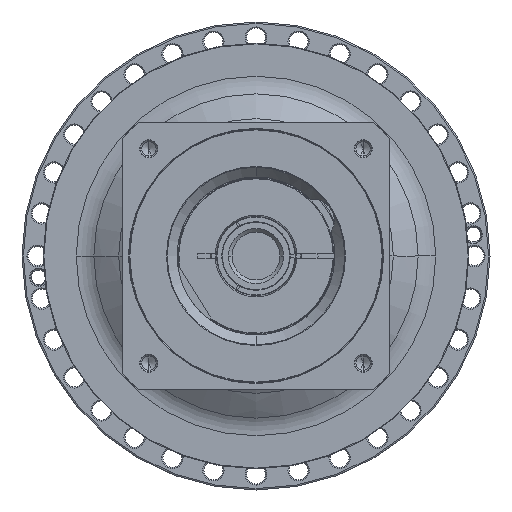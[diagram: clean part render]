
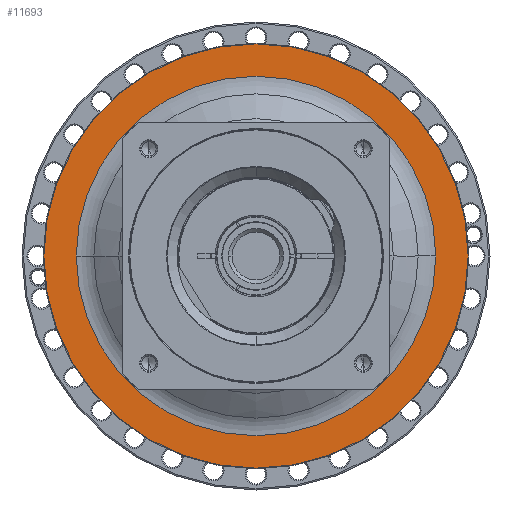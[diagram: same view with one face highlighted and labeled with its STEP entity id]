
A CAD part, left-side view. The second image highlights one B-rep face of the part: STEP entity #11693.
In plain terms, the highlighted planar face has unit normal (-1, 0, 0) as drawn and (1, 0, 0) by its records, which use the part's own axes.
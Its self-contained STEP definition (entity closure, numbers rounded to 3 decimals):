
#11124=CARTESIAN_POINT('',(-31.,0.,0.));
#11125=DIRECTION('',(-1.,0.,0.));
#11126=DIRECTION('',(0.,-1.,0.));
#11127=AXIS2_PLACEMENT_3D('',#11124,#11125,#11126);
#11129=CARTESIAN_POINT('',(-31.,0.,0.));
#11130=DIRECTION('',(-1.,0.,0.));
#11131=DIRECTION('',(0.,1.,0.));
#11132=AXIS2_PLACEMENT_3D('',#11129,#11130,#11131);
#11134=CARTESIAN_POINT('',(-31.,0.,0.));
#11135=DIRECTION('',(1.,0.,0.));
#11136=DIRECTION('',(0.,1.,0.));
#11137=AXIS2_PLACEMENT_3D('',#11134,#11135,#11136);
#11144=CARTESIAN_POINT('',(-31.,0.,0.));
#11145=DIRECTION('',(-1.,0.,0.));
#11146=DIRECTION('',(0.,1.,0.));
#11147=AXIS2_PLACEMENT_3D('',#11144,#11145,#11146);
#11248=CARTESIAN_POINT('',(-31.,-150.5,0.));
#11249=CARTESIAN_POINT('',(-31.,150.5,0.));
#11250=VERTEX_POINT('',#11248);
#11251=VERTEX_POINT('',#11249);
#11276=CARTESIAN_POINT('',(-31.,127.5,0.));
#11278=VERTEX_POINT('',#11276);
#11280=CARTESIAN_POINT('',(-31.,-127.5,0.));
#11282=VERTEX_POINT('',#11280);
#11678=CARTESIAN_POINT('',(-31.,0.,0.));
#11679=DIRECTION('',(1.,0.,0.));
#11680=DIRECTION('',(0.,-1.,0.));
#11681=AXIS2_PLACEMENT_3D('',#11678,#11679,#11680);
#11682=PLANE('',#11681);
#11683=ORIENTED_EDGE('',*,*,#11619,.T.);
#11684=ORIENTED_EDGE('',*,*,#11634,.T.);
#11685=EDGE_LOOP('',(#11683,#11684));
#11686=FACE_OUTER_BOUND('',#11685,.F.);
#11688=ORIENTED_EDGE('',*,*,#11687,.T.);
#11690=ORIENTED_EDGE('',*,*,#11689,.F.);
#11691=EDGE_LOOP('',(#11688,#11690));
#11692=FACE_BOUND('',#11691,.F.);
#11693=ADVANCED_FACE('',(#11686,#11692),#11682,.T.);
#11128=CIRCLE('',#11127,150.5);
#11133=CIRCLE('',#11132,150.5);
#11138=CIRCLE('',#11137,127.5);
#11148=CIRCLE('',#11147,127.5);
#11619=EDGE_CURVE('',#11250,#11251,#11128,.T.);
#11634=EDGE_CURVE('',#11251,#11250,#11133,.T.);
#11687=EDGE_CURVE('',#11278,#11282,#11138,.T.);
#11689=EDGE_CURVE('',#11278,#11282,#11148,.T.);
